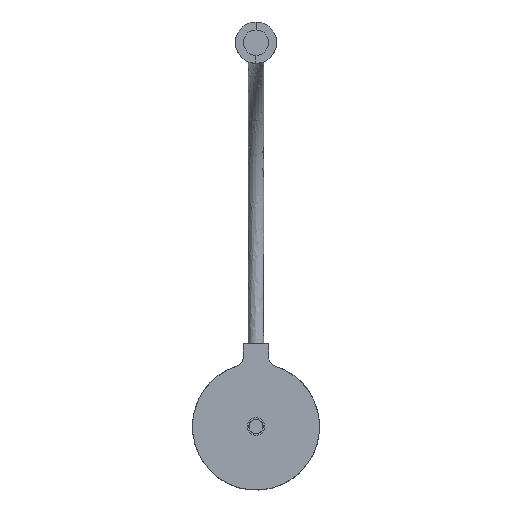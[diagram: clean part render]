
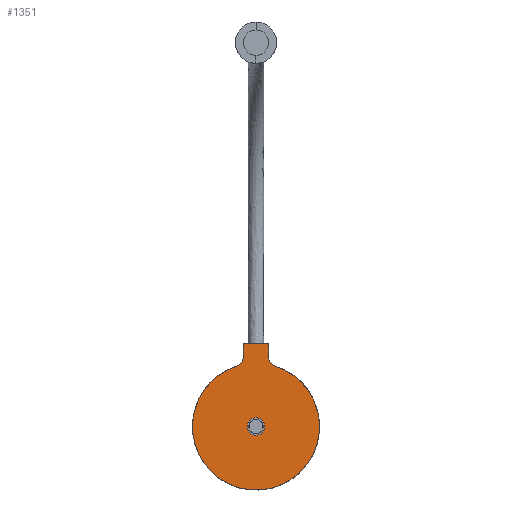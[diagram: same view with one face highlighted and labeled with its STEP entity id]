
A CAD part, top view. The second image highlights one B-rep face of the part: STEP entity #1351.
In plain terms, the highlighted planar face has unit normal (0, 0, 1).
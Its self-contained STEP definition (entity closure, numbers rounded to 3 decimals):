
#163=FACE_OUTER_BOUND('',#259,.T.);
#259=EDGE_LOOP('',(#1094,#1095,#1096,#1097,#1098,#1099));
#375=LINE('',#2392,#483);
#376=LINE('',#2394,#484);
#377=LINE('',#2395,#485);
#483=VECTOR('',#1803,304.8);
#484=VECTOR('',#1804,304.8);
#485=VECTOR('',#1805,304.8);
#552=CIRCLE('',#1479,40.);
#553=CIRCLE('',#1481,5.562);
#554=CIRCLE('',#1483,5.562);
#647=VERTEX_POINT('',#2319);
#648=VERTEX_POINT('',#2320);
#651=VERTEX_POINT('',#2352);
#653=VERTEX_POINT('',#2365);
#661=VERTEX_POINT('',#2391);
#662=VERTEX_POINT('',#2393);
#799=EDGE_CURVE('',#647,#648,#552,.T.);
#803=EDGE_CURVE('',#651,#647,#553,.T.);
#806=EDGE_CURVE('',#648,#653,#554,.T.);
#815=EDGE_CURVE('',#661,#653,#375,.T.);
#816=EDGE_CURVE('',#662,#661,#376,.T.);
#817=EDGE_CURVE('',#651,#662,#377,.T.);
#1094=ORIENTED_EDGE('',*,*,#806,.T.);
#1095=ORIENTED_EDGE('',*,*,#815,.F.);
#1096=ORIENTED_EDGE('',*,*,#816,.F.);
#1097=ORIENTED_EDGE('',*,*,#817,.F.);
#1098=ORIENTED_EDGE('',*,*,#803,.T.);
#1099=ORIENTED_EDGE('',*,*,#799,.T.);
#1281=PLANE('',#1488);
#1351=ADVANCED_FACE('',(#163),#1281,.T.);
#1479=AXIS2_PLACEMENT_3D('',#2321,#1776,#1777);
#1481=AXIS2_PLACEMENT_3D('',#2353,#1782,#1783);
#1483=AXIS2_PLACEMENT_3D('',#2366,#1787,#1788);
#1488=AXIS2_PLACEMENT_3D('',#2390,#1801,#1802);
#1776=DIRECTION('center_axis',(0.,0.,1.));
#1777=DIRECTION('ref_axis',(1.,0.,0.));
#1782=DIRECTION('center_axis',(0.,0.,-1.));
#1783=DIRECTION('ref_axis',(1.,0.,0.));
#1787=DIRECTION('center_axis',(0.,0.,-1.));
#1788=DIRECTION('ref_axis',(-1.,0.,0.));
#1801=DIRECTION('center_axis',(0.,0.,1.));
#1802=DIRECTION('ref_axis',(0.,1.,0.));
#1803=DIRECTION('',(0.,-1.,0.));
#1804=DIRECTION('',(1.,0.,0.));
#1805=DIRECTION('',(0.,1.,0.));
#2319=CARTESIAN_POINT('',(-11.714,38.246,30.));
#2320=CARTESIAN_POINT('',(11.714,38.246,30.));
#2321=CARTESIAN_POINT('Origin',(0.,0.,
30.));
#2352=CARTESIAN_POINT('',(-8.,43.492,30.));
#2353=CARTESIAN_POINT('Origin',(-13.562,43.492,30.));
#2365=CARTESIAN_POINT('',(8.,43.492,30.));
#2366=CARTESIAN_POINT('Origin',(13.562,43.492,30.));
#2390=CARTESIAN_POINT('Origin',(8.,43.492,30.));
#2391=CARTESIAN_POINT('',(8.,52.278,30.));
#2392=CARTESIAN_POINT('',(8.,52.278,30.));
#2393=CARTESIAN_POINT('',(-8.,52.278,30.));
#2394=CARTESIAN_POINT('',(-8.,52.278,30.));
#2395=CARTESIAN_POINT('',(-8.,43.492,30.));
